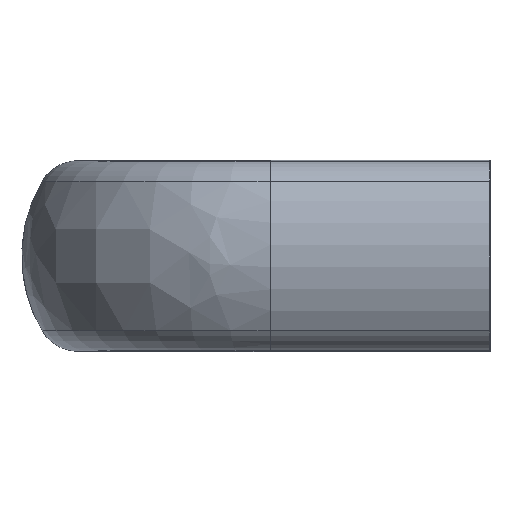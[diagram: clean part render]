
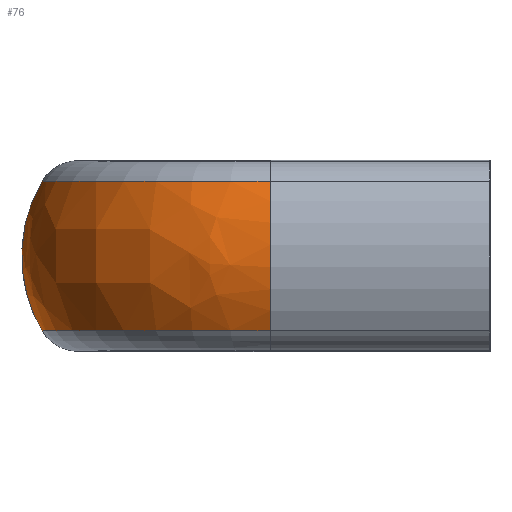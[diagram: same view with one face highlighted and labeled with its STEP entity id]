
A CAD part, left-side view. The second image highlights one B-rep face of the part: STEP entity #76.
In plain terms, the highlighted free-form (B-spline) face has degree [3, 3] with [4, 4] control points.
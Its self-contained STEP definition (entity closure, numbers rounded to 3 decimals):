
#76 = ADVANCED_FACE( '', ( #131 ), #132, .T. );
#131 = FACE_OUTER_BOUND( '', #243, .T. );
#132 = ( BOUNDED_SURFACE(  )B_SPLINE_SURFACE( 3, 3, ( ( #246, #247, #248, #249 ), ( #250, #251, #252, #253 ), ( #254, #255, #256, #257 ), ( #258, #259, #260, #261 ) ), .UNSPECIFIED., .F., .F., .F. )B_SPLINE_SURFACE_WITH_KNOTS( ( 4, 4 ), ( 4, 4 ), ( 1.571, 3.142 ), ( -0.533, 0.533 ), .UNSPECIFIED. )GEOMETRIC_REPRESENTATION_ITEM(  )RATIONAL_B_SPLINE_SURFACE( ( ( 1., 0.805, 0.805, 1. ), ( 0.907, 0.73, 0.73, 0.907 ), ( 0.907, 0.73, 0.73, 0.907 ), ( 1., 0.805, 0.805, 1. ) ) )REPRESENTATION_ITEM( '' )SURFACE(  ) );
#243 = EDGE_LOOP( '', ( #404, #405, #406, #407 ) );
#246 = CARTESIAN_POINT( '', ( -30.5, 46.852, 7.826 ) );
#247 = CARTESIAN_POINT( '', ( -44.472, 46.852, 7.826 ) );
#248 = CARTESIAN_POINT( '', ( -54.352, 36.972, 7.826 ) );
#249 = CARTESIAN_POINT( '', ( -54.352, 23., 7.826 ) );
#250 = CARTESIAN_POINT( '', ( -30.5, 49.775, 2.875 ) );
#251 = CARTESIAN_POINT( '', ( -46.185, 49.775, 2.875 ) );
#252 = CARTESIAN_POINT( '', ( -57.275, 38.685, 2.875 ) );
#253 = CARTESIAN_POINT( '', ( -57.275, 23., 2.875 ) );
#254 = CARTESIAN_POINT( '', ( -30.5, 49.775, -2.875 ) );
#255 = CARTESIAN_POINT( '', ( -46.185, 49.775, -2.875 ) );
#256 = CARTESIAN_POINT( '', ( -57.275, 38.685, -2.875 ) );
#257 = CARTESIAN_POINT( '', ( -57.275, 23., -2.875 ) );
#258 = CARTESIAN_POINT( '', ( -30.5, 46.852, -7.826 ) );
#259 = CARTESIAN_POINT( '', ( -44.472, 46.852, -7.826 ) );
#260 = CARTESIAN_POINT( '', ( -54.352, 36.972, -7.826 ) );
#261 = CARTESIAN_POINT( '', ( -54.352, 23., -7.826 ) );
#404 = ORIENTED_EDGE( '', *, *, #799, .T. );
#405 = ORIENTED_EDGE( '', *, *, #800, .F. );
#406 = ORIENTED_EDGE( '', *, *, #801, .F. );
#407 = ORIENTED_EDGE( '', *, *, #802, .T. );
#799 = EDGE_CURVE( '', #921, #925, #927, .T. );
#800 = EDGE_CURVE( '', #928, #925, #929, .T. );
#801 = EDGE_CURVE( '', #930, #928, #931, .T. );
#802 = EDGE_CURVE( '', #930, #921, #932, .T. );
#921 = VERTEX_POINT( '', #1118 );
#925 = VERTEX_POINT( '', #1127 );
#927 = CIRCLE( '', #1129, 23.852 );
#928 = VERTEX_POINT( '', #1130 );
#929 = CIRCLE( '', #1131, 15.391 );
#930 = VERTEX_POINT( '', #1132 );
#931 = CIRCLE( '', #1133, 23.852 );
#932 = B_SPLINE_CURVE_WITH_KNOTS( '', 3, ( #1134, #1135, #1136, #1137, #1138, #1139, #1140, #1141, #1142, #1143 ), .UNSPECIFIED., .F., .F., ( 4, 2, 2, 2, 4 ), ( 0., 0.25, 0.5, 0.75, 1. ), .UNSPECIFIED. );
#1118 = CARTESIAN_POINT( '', ( -30.5, 46.852, -7.833 ) );
#1127 = CARTESIAN_POINT( '', ( -54.352, 23., -7.826 ) );
#1129 = AXIS2_PLACEMENT_3D( '', #1398, #1399, #1400 );
#1130 = CARTESIAN_POINT( '', ( -54.352, 23., 7.826 ) );
#1131 = AXIS2_PLACEMENT_3D( '', #1401, #1402, #1403 );
#1132 = CARTESIAN_POINT( '', ( -30.5, 46.851, 7.834 ) );
#1133 = AXIS2_PLACEMENT_3D( '', #1404, #1405, #1406 );
#1134 = CARTESIAN_POINT( '', ( -30.5, 46.852, 7.826 ) );
#1135 = CARTESIAN_POINT( '', ( -30.5, 47.548, 6.648 ) );
#1136 = CARTESIAN_POINT( '', ( -30.5, 48.085, 5.376 ) );
#1137 = CARTESIAN_POINT( '', ( -30.5, 48.806, 2.736 ) );
#1138 = CARTESIAN_POINT( '', ( -30.5, 48.99, 1.368 ) );
#1139 = CARTESIAN_POINT( '', ( -30.5, 48.99, -1.368 ) );
#1140 = CARTESIAN_POINT( '', ( -30.5, 48.806, -2.736 ) );
#1141 = CARTESIAN_POINT( '', ( -30.5, 48.085, -5.376 ) );
#1142 = CARTESIAN_POINT( '', ( -30.5, 47.548, -6.648 ) );
#1143 = CARTESIAN_POINT( '', ( -30.5, 46.852, -7.826 ) );
#1398 = CARTESIAN_POINT( '', ( -30.5, 23., -7.826 ) );
#1399 = DIRECTION( '', ( 0., 0., 1. ) );
#1400 = DIRECTION( '', ( 1., 0., 0. ) );
#1401 = CARTESIAN_POINT( '', ( -41.099, 23., 0. ) );
#1402 = DIRECTION( '', ( 0., -1., 0. ) );
#1403 = DIRECTION( '', ( 0., 0., 1. ) );
#1404 = CARTESIAN_POINT( '', ( -30.5, 23., 7.826 ) );
#1405 = DIRECTION( '', ( 0., 0., 1. ) );
#1406 = DIRECTION( '', ( 1., 0., 0. ) );
